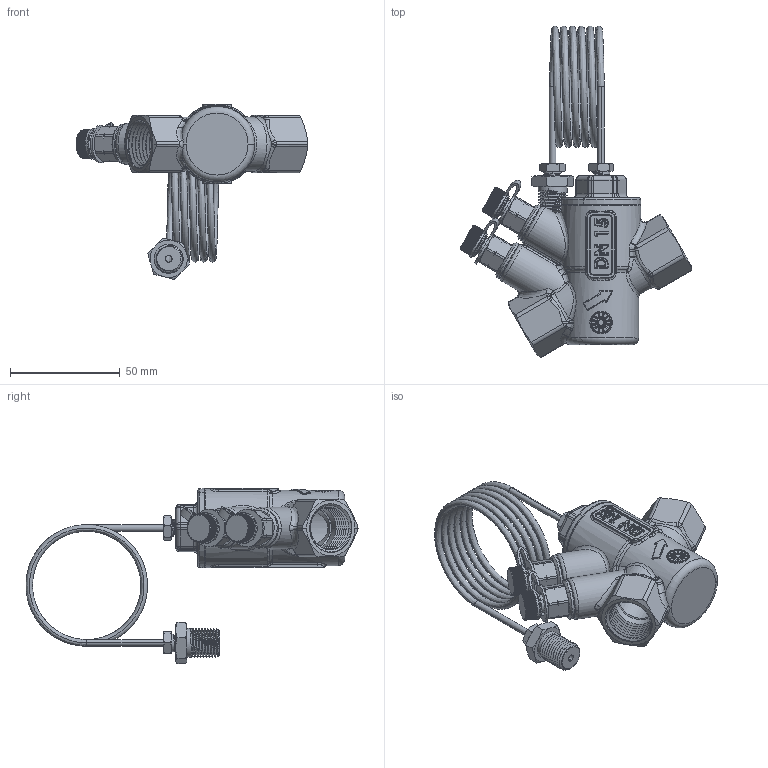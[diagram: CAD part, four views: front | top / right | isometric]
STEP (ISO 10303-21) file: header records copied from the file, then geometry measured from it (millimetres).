
FILE_DESCRIPTION (( 'STEP AP203' ), '1' );
FILE_NAME ('SDP.30 ABHouse DN15 ISO FF PTplugs.step', '2024-04-12T07:28:51', ( '' ), ( '' ), 'SwSTEP 2.0', 'SolidWorks 2023', '' );
FILE_SCHEMA (( 'CONFIG_CONTROL_DESIGN' ));
Products named in the file (1): SDP.30 ABHouse DN15 ISO FF PTplugs
Bounding box: 105.48 x 150.95 x 79.64 mm (x, y, z)
Surface area: 36788.7 mm2 (no closed solid volume)
Topology: 0 solids, 28 shells, 2626 faces, 13036 edges, 9510 vertices
Faces by surface type: bspline 1040, cylinder 950, torus 226, plane 226, cone 113, sphere 71
Entity records: 379293 total; most frequent: CARTESIAN_POINT 302258, ORIENTED_EDGE 18428, EDGE_CURVE 12966, B_SPLINE_CURVE_WITH_KNOTS 9679, VERTEX_POINT 9489, DIRECTION 8204, AXIS2_PLACEMENT_3D 3551, EDGE_LOOP 2696
